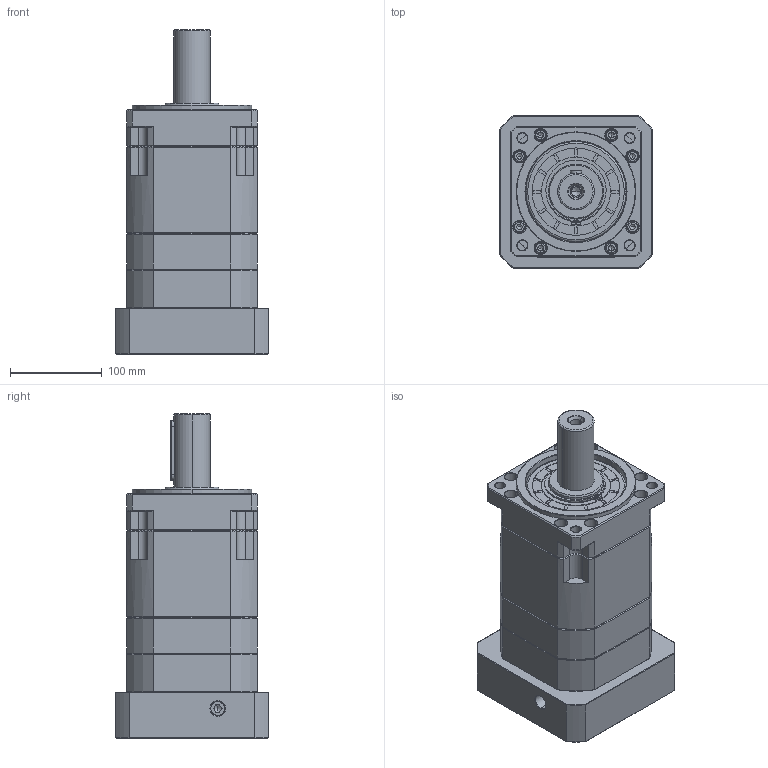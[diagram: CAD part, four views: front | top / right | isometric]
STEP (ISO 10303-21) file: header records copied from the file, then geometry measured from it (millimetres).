
FILE_DESCRIPTION (( 'STEP AP214' ), '1' );
FILE_NAME ('ZB142A-D40-L3-32-150-185-M10.step', '2023-03-17T10:47:51', ( '' ), ( '' ), 'SwSTEP 2.0', 'SolidWorks 2016', '' );
FILE_SCHEMA (( 'AUTOMOTIVE_DESIGN' ));
Length unit declared in the file: millimetre
Products named in the file (1): ZB142A-D40-L3-32-150-185-M10
Bounding box: 166 x 166 x 353.2 mm (x, y, z)
Volume: 5057225.5 mm3; surface area: 345459.6 mm2
Topology: 6 solids, 6 shells, 2066 faces, 5447 edges, 3480 vertices
Faces by surface type: plane 935, cylinder 436, cone 360, bspline 313, torus 22
Entity records: 114399 total; most frequent: CARTESIAN_POINT 43244, ORIENTED_EDGE 10834, DIRECTION 8915, EDGE_CURVE 5417, VERTEX_POINT 3480, LINE 3303, VECTOR 3303, AXIS2_PLACEMENT_3D 2806
